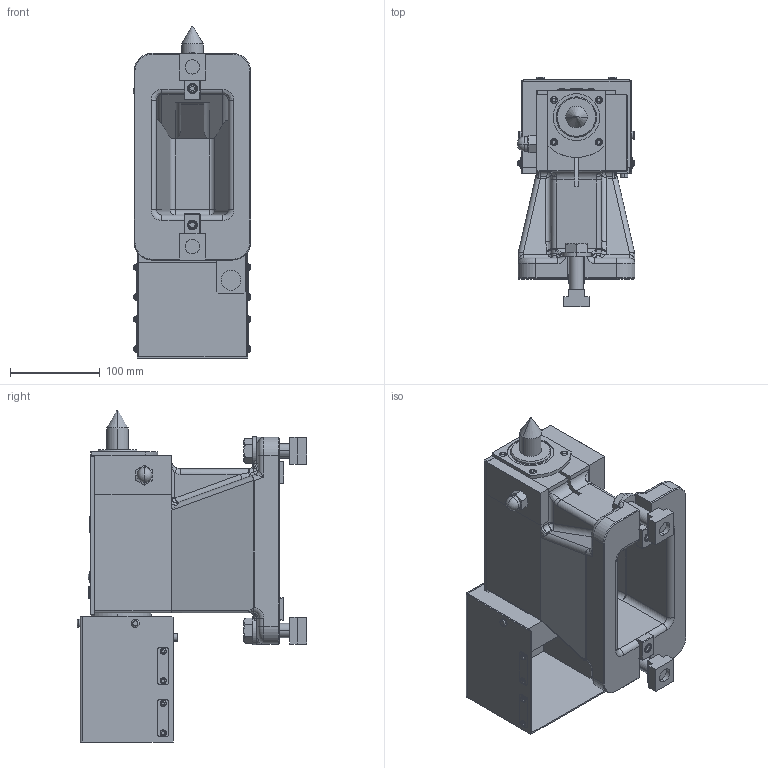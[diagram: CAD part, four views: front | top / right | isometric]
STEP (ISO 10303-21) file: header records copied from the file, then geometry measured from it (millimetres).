
FILE_DESCRIPTION (( 'STEP AP214' ), '1' );
FILE_NAME ('MR250A(H)N／TS250A(H)N.STEP', '2020-03-20T05:21:17', ( '' ), ( '' ), 'SwSTEP 2.0', 'SolidWorks 2017', '' );
FILE_SCHEMA (( 'AUTOMOTIVE_DESIGN' ));
Length unit declared in the file: millimetre
Products named in the file (13): 僇僶乕PAD(61E8155783)TS200HN; センタソケット; ネームプレート(61E4736691); カバー(61E4494422)TS200RH12; クランププレートＢ(61E427913); クランププレートＡ(61E427912); ガイドブロック(61M4197783); ボデー(61E2474262)MR250RN; MR250A(H)N／TS250A(H)N; CLAMPING PARTS(61E4343671)結合; MR250A(H)N儂儞僞僀; シールホルダ(61E4300661)RS016RSA; フクロナット　ツイカコウ(61E4712370)TS200HN
Assembly tree (14 placements, depth 3):
  MR250A(H)N／TS250A(H)N
    MR250A(H)N儂儞僞僀
      ボデー(61E2474262)MR250RN
      ガイドブロック(61M4197783)  x2
      クランププレートＡ(61E427912)
      クランププレートＢ(61E427913)
      カバー(61E4494422)TS200RH12
      ネームプレート(61E4736691)
      センタソケット
      僇僶乕PAD(61E8155783)TS200HN
      フクロナット　ツイカコウ(61E4712370)TS200HN
      シールホルダ(61E4300661)RS016RSA
    CLAMPING PARTS(61E4343671)結合  x2
Bounding box: 131.1 x 255.9 x 369.51 mm (x, y, z)
Volume: 3116945.8 mm3; surface area: 504324.7 mm2
Topology: 13 solids, 13 shells, 2246 faces, 6034 edges, 3911 vertices
Faces by surface type: plane 1736, cylinder 294, bspline 76, torus 68, cone 66, sphere 6
Entity records: 75713 total; most frequent: CARTESIAN_POINT 15770, ORIENTED_EDGE 11676, DIRECTION 10546, EDGE_CURVE 5838, LINE 4926, VECTOR 4926, VERTEX_POINT 3809, AXIS2_PLACEMENT_3D 2810
